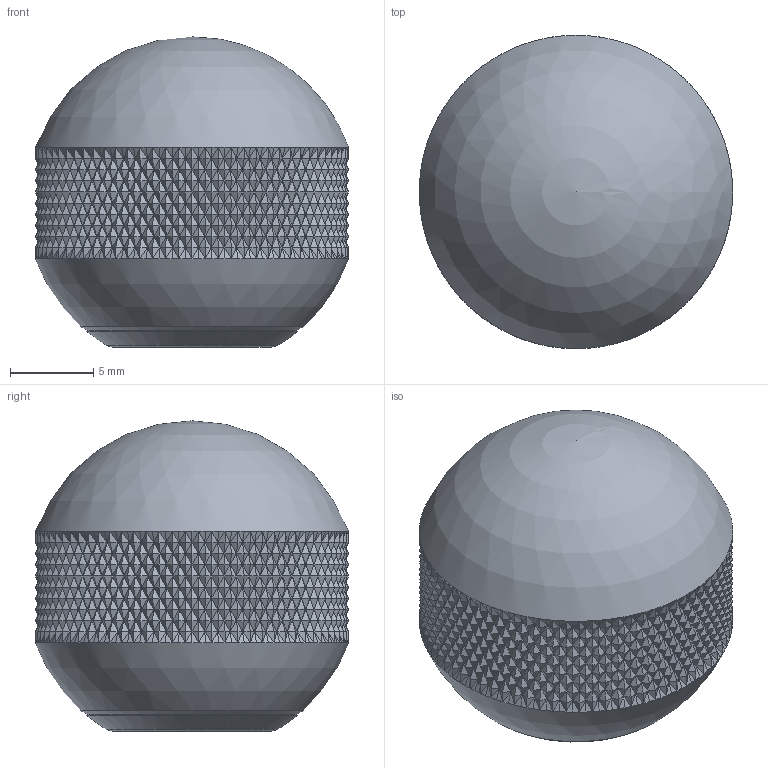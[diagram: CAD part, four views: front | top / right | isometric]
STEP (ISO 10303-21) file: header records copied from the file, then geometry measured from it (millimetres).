
FILE_DESCRIPTION(('Open CASCADE Model'),'2;1');
FILE_NAME('GR-BALL-knob-20','2026-10-19T21:25:24',('Author'),( 'Open CASCADE'),'Open CASCADE STEP processor 8.0','build123d', 'Unknown');
FILE_SCHEMA(('AUTOMOTIVE_DESIGN { 1 0 10303 214 1 1 1 1 }'));
Length unit declared in the file: millimetre
Products named in the file (2): GR-BALL-knob-20; brass_GR-BALL20__k
Assembly tree (1 placements, depth 2):
  GR-BALL-knob-20
    brass_GR-BALL20__k
Bounding box: 18.84 x 18.84 x 18.66 mm (x, y, z)
Volume: 3794.8 mm3; surface area: 1466.9 mm2
Topology: 1 solids, 1 shells, 3267 faces, 4902 edges, 1638 vertices
Faces by surface type: plane 3259, sphere 3, cone 2, cylinder 2, bspline 1
Full cylindrical faces by diameter (mm): 3.3 x1, 5.1 x1
Entity records: 123587 total; most frequent: CARTESIAN_POINT 24020, DIRECTION 17246, ORIENTED_EDGE 9802, PCURVE 9802, DEFINITIONAL_REPRESENTATION 9802, LINE 9798, VECTOR 9798, EDGE_CURVE 4901
